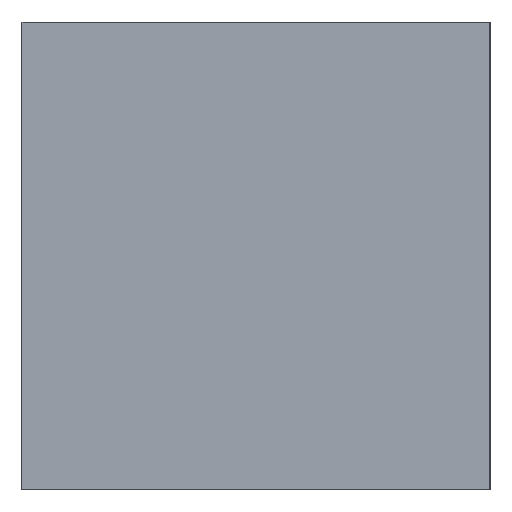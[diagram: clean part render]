
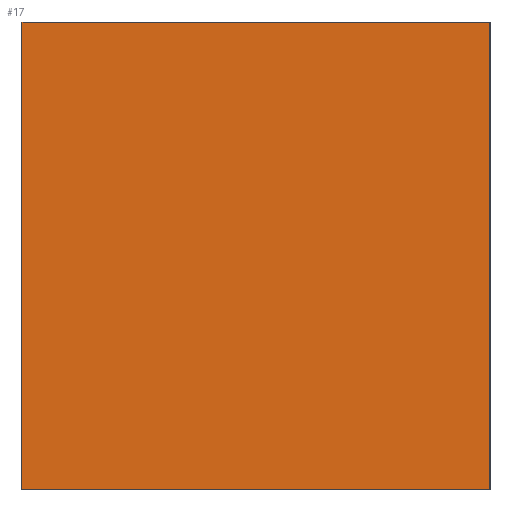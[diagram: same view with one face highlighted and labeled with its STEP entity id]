
A CAD part, left-side view. The second image highlights one B-rep face of the part: STEP entity #17.
In plain terms, the highlighted planar face has unit normal (-1, 0, 0).
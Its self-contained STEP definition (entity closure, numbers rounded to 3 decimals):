
#17 = ADVANCED_FACE('',(#18),#32,.F.);
#18 = FACE_BOUND('',#19,.F.);
#19 = EDGE_LOOP('',(#20,#55,#83,#111));
#20 = ORIENTED_EDGE('',*,*,#21,.F.);
#21 = EDGE_CURVE('',#22,#24,#26,.T.);
#22 = VERTEX_POINT('',#23);
#23 = CARTESIAN_POINT('',(0.,210.,-250.));
#24 = VERTEX_POINT('',#25);
#25 = CARTESIAN_POINT('',(0.,210.,-230.));
#26 = SURFACE_CURVE('',#27,(#31,#43),.PCURVE_S1.);
#27 = LINE('',#28,#29);
#28 = CARTESIAN_POINT('',(0.,210.,-250.));
#29 = VECTOR('',#30,1.);
#30 = DIRECTION('',(0.,0.,1.));
#31 = PCURVE('',#32,#37);
#32 = PLANE('',#33);
#33 = AXIS2_PLACEMENT_3D('',#34,#35,#36);
#34 = CARTESIAN_POINT('',(0.,210.,-250.));
#35 = DIRECTION('',(1.,0.,0.));
#36 = DIRECTION('',(0.,0.,1.));
#37 = DEFINITIONAL_REPRESENTATION('',(#38),#42);
#38 = LINE('',#39,#40);
#39 = CARTESIAN_POINT('',(0.,0.));
#40 = VECTOR('',#41,1.);
#41 = DIRECTION('',(1.,0.));
#42 = ( GEOMETRIC_REPRESENTATION_CONTEXT(2) 
PARAMETRIC_REPRESENTATION_CONTEXT() REPRESENTATION_CONTEXT('2D SPACE',''
  ) );
#43 = PCURVE('',#44,#49);
#44 = PLANE('',#45);
#45 = AXIS2_PLACEMENT_3D('',#46,#47,#48);
#46 = CARTESIAN_POINT('',(0.,210.,-250.));
#47 = DIRECTION('',(0.,1.,0.));
#48 = DIRECTION('',(0.,0.,1.));
#49 = DEFINITIONAL_REPRESENTATION('',(#50),#54);
#50 = LINE('',#51,#52);
#51 = CARTESIAN_POINT('',(0.,0.));
#52 = VECTOR('',#53,1.);
#53 = DIRECTION('',(1.,0.));
#54 = ( GEOMETRIC_REPRESENTATION_CONTEXT(2) 
PARAMETRIC_REPRESENTATION_CONTEXT() REPRESENTATION_CONTEXT('2D SPACE',''
  ) );
#55 = ORIENTED_EDGE('',*,*,#56,.T.);
#56 = EDGE_CURVE('',#22,#57,#59,.T.);
#57 = VERTEX_POINT('',#58);
#58 = CARTESIAN_POINT('',(0.,230.,-250.));
#59 = SURFACE_CURVE('',#60,(#64,#71),.PCURVE_S1.);
#60 = LINE('',#61,#62);
#61 = CARTESIAN_POINT('',(0.,210.,-250.));
#62 = VECTOR('',#63,1.);
#63 = DIRECTION('',(0.,1.,0.));
#64 = PCURVE('',#32,#65);
#65 = DEFINITIONAL_REPRESENTATION('',(#66),#70);
#66 = LINE('',#67,#68);
#67 = CARTESIAN_POINT('',(0.,0.));
#68 = VECTOR('',#69,1.);
#69 = DIRECTION('',(0.,-1.));
#70 = ( GEOMETRIC_REPRESENTATION_CONTEXT(2) 
PARAMETRIC_REPRESENTATION_CONTEXT() REPRESENTATION_CONTEXT('2D SPACE',''
  ) );
#71 = PCURVE('',#72,#77);
#72 = PLANE('',#73);
#73 = AXIS2_PLACEMENT_3D('',#74,#75,#76);
#74 = CARTESIAN_POINT('',(0.,210.,-250.));
#75 = DIRECTION('',(0.,0.,1.));
#76 = DIRECTION('',(1.,0.,0.));
#77 = DEFINITIONAL_REPRESENTATION('',(#78),#82);
#78 = LINE('',#79,#80);
#79 = CARTESIAN_POINT('',(0.,0.));
#80 = VECTOR('',#81,1.);
#81 = DIRECTION('',(0.,1.));
#82 = ( GEOMETRIC_REPRESENTATION_CONTEXT(2) 
PARAMETRIC_REPRESENTATION_CONTEXT() REPRESENTATION_CONTEXT('2D SPACE',''
  ) );
#83 = ORIENTED_EDGE('',*,*,#84,.T.);
#84 = EDGE_CURVE('',#57,#85,#87,.T.);
#85 = VERTEX_POINT('',#86);
#86 = CARTESIAN_POINT('',(0.,230.,-230.));
#87 = SURFACE_CURVE('',#88,(#92,#99),.PCURVE_S1.);
#88 = LINE('',#89,#90);
#89 = CARTESIAN_POINT('',(0.,230.,-250.));
#90 = VECTOR('',#91,1.);
#91 = DIRECTION('',(0.,0.,1.));
#92 = PCURVE('',#32,#93);
#93 = DEFINITIONAL_REPRESENTATION('',(#94),#98);
#94 = LINE('',#95,#96);
#95 = CARTESIAN_POINT('',(0.,-20.));
#96 = VECTOR('',#97,1.);
#97 = DIRECTION('',(1.,0.));
#98 = ( GEOMETRIC_REPRESENTATION_CONTEXT(2) 
PARAMETRIC_REPRESENTATION_CONTEXT() REPRESENTATION_CONTEXT('2D SPACE',''
  ) );
#99 = PCURVE('',#100,#105);
#100 = PLANE('',#101);
#101 = AXIS2_PLACEMENT_3D('',#102,#103,#104);
#102 = CARTESIAN_POINT('',(0.,230.,-250.));
#103 = DIRECTION('',(0.,1.,0.));
#104 = DIRECTION('',(0.,0.,1.));
#105 = DEFINITIONAL_REPRESENTATION('',(#106),#110);
#106 = LINE('',#107,#108);
#107 = CARTESIAN_POINT('',(0.,0.));
#108 = VECTOR('',#109,1.);
#109 = DIRECTION('',(1.,0.));
#110 = ( GEOMETRIC_REPRESENTATION_CONTEXT(2) 
PARAMETRIC_REPRESENTATION_CONTEXT() REPRESENTATION_CONTEXT('2D SPACE',''
  ) );
#111 = ORIENTED_EDGE('',*,*,#112,.F.);
#112 = EDGE_CURVE('',#24,#85,#113,.T.);
#113 = SURFACE_CURVE('',#114,(#118,#125),.PCURVE_S1.);
#114 = LINE('',#115,#116);
#115 = CARTESIAN_POINT('',(0.,210.,-230.));
#116 = VECTOR('',#117,1.);
#117 = DIRECTION('',(0.,1.,0.));
#118 = PCURVE('',#32,#119);
#119 = DEFINITIONAL_REPRESENTATION('',(#120),#124);
#120 = LINE('',#121,#122);
#121 = CARTESIAN_POINT('',(20.,0.));
#122 = VECTOR('',#123,1.);
#123 = DIRECTION('',(0.,-1.));
#124 = ( GEOMETRIC_REPRESENTATION_CONTEXT(2) 
PARAMETRIC_REPRESENTATION_CONTEXT() REPRESENTATION_CONTEXT('2D SPACE',''
  ) );
#125 = PCURVE('',#126,#131);
#126 = PLANE('',#127);
#127 = AXIS2_PLACEMENT_3D('',#128,#129,#130);
#128 = CARTESIAN_POINT('',(0.,210.,-230.));
#129 = DIRECTION('',(0.,0.,1.));
#130 = DIRECTION('',(1.,0.,0.));
#131 = DEFINITIONAL_REPRESENTATION('',(#132),#136);
#132 = LINE('',#133,#134);
#133 = CARTESIAN_POINT('',(0.,0.));
#134 = VECTOR('',#135,1.);
#135 = DIRECTION('',(0.,1.));
#136 = ( GEOMETRIC_REPRESENTATION_CONTEXT(2) 
PARAMETRIC_REPRESENTATION_CONTEXT() REPRESENTATION_CONTEXT('2D SPACE',''
  ) );
